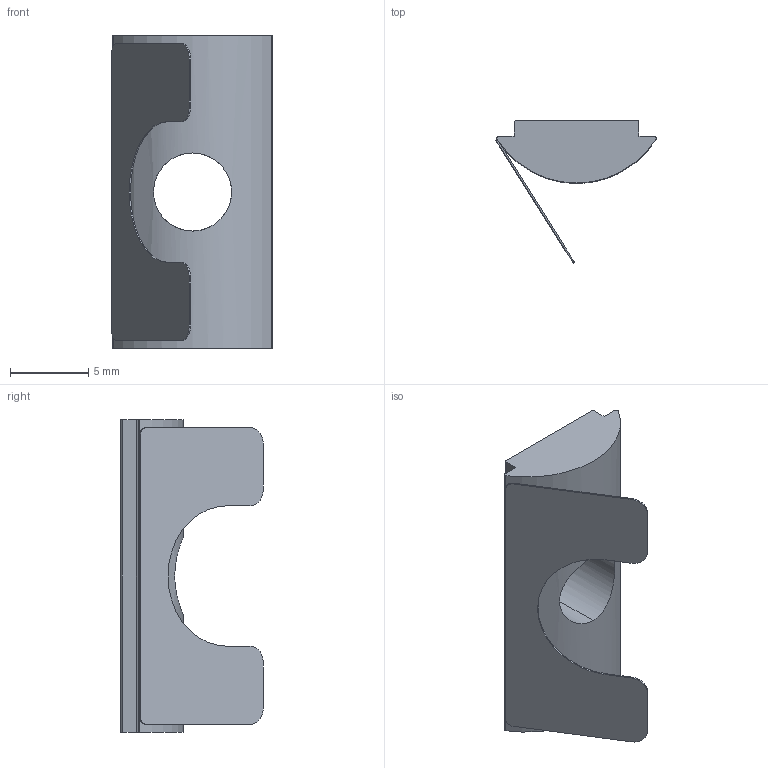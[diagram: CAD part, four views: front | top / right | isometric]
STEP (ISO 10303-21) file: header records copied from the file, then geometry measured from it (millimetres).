
FILE_DESCRIPTION (( 'STEP AP203' ), '1' );
FILE_NAME ('230YS05.STEP', '2018-07-03T12:38:33', ( '' ), ( '' ), 'SwSTEP 2.0', 'SolidWorks 2014', '' );
FILE_SCHEMA (( 'CONFIG_CONTROL_DESIGN' ));
Length unit declared in the file: millimetre
Products named in the file (3): SOMUN YAYI-30; 230YS05; 230YS05 GÖVDE
Assembly tree (2 placements, depth 2):
  230YS05
    230YS05 GÖVDE
    SOMUN YAYI-30
Bounding box: 10.27 x 9.11 x 20 mm (x, y, z)
Volume: 537.5 mm3; surface area: 814.8 mm2
Topology: 2 solids, 2 shells, 31 faces, 81 edges, 54 vertices
Faces by surface type: plane 16, cylinder 15
Entity records: 1328 total; most frequent: CARTESIAN_POINT 231, DIRECTION 179, ORIENTED_EDGE 162, EDGE_CURVE 81, AXIS2_PLACEMENT_3D 64, VERTEX_POINT 54, LINE 51, VECTOR 51
